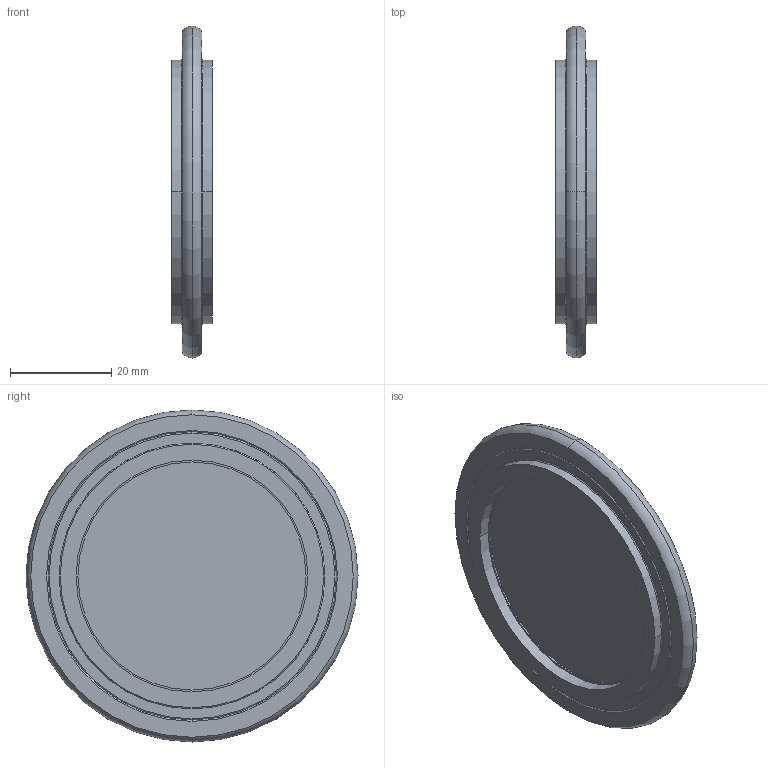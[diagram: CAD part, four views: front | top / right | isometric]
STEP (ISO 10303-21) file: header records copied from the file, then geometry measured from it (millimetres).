
FILE_DESCRIPTION((''),'2;1');
FILE_NAME('W:\211-100.stp','2003-10-08T13:13:44',('KAA'),(''),'Autodesk Inventor (R) 6.0','Autodesk Inventor (R) 6.0','');
FILE_SCHEMA(('CONFIG_CONTROL_DESIGN'));
Length unit declared in the file: millimetre
Products named in the file (1): 211-100
Bounding box: 8 x 65.5 x 65.5 mm (x, y, z)
Volume: 9672.3 mm3; surface area: 10274.7 mm2
Topology: 1 solids, 1 shells, 77 faces, 193 edges, 124 vertices
Faces by surface type: cylinder 30, plane 27, torus 16, bspline 4
Entity records: 2646 total; most frequent: CARTESIAN_POINT 571, DIRECTION 485, ORIENTED_EDGE 386, AXIS2_PLACEMENT_3D 218, EDGE_CURVE 193, CIRCLE 144, VERTEX_POINT 124, EDGE_LOOP 89
